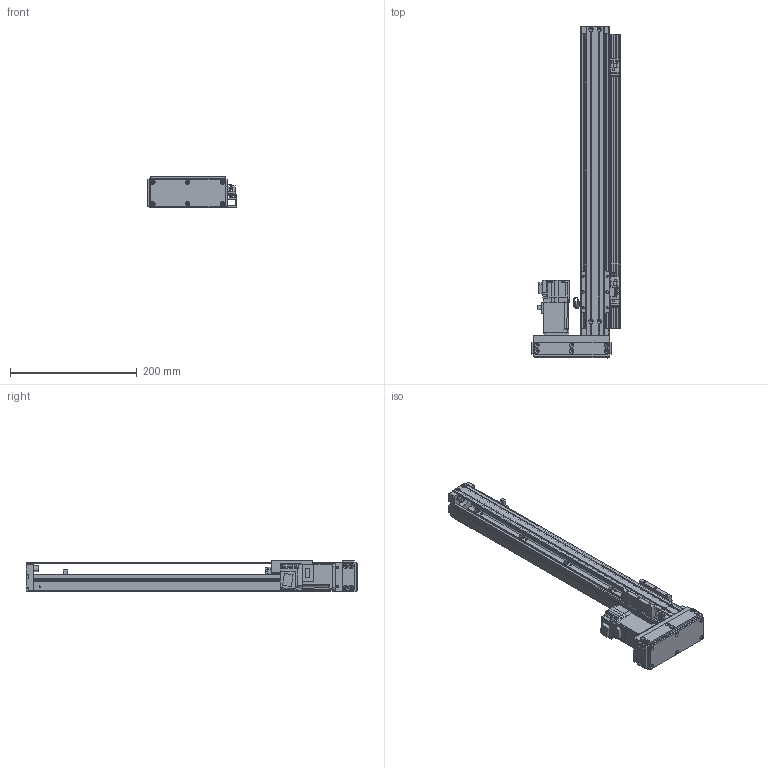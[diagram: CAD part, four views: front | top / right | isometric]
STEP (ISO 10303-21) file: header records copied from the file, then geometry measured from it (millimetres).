
FILE_DESCRIPTION(/* description */ ('MANUFACTURE'),/* implementation_level */ '2;1');
FILE_NAME(/* name */ '\\192.168.0.160\disk1\HAN SHIN Master\B-설계부문\C-표준\B-2024년\BC02-표준도면\+로봇 개선표준도면\표준 승인도 폴더 - 재작업\3D\HG45\병렬-L\HG45-L10-N-0350-R10.stp',/* time_stamp */ '2024-03-05T11:06:36+09:00',/* author */ ('User'),/* organization */ (''),/* preprocessor_version */ 'ST-DEVELOPER v18.1',/* originating_system */ 'Autodesk Inventor 2022',/* authorisation */ 'LIP');
FILE_SCHEMA (('AUTOMOTIVE_DESIGN { 1 0 10303 214 3 1 1 }'));
Products named in the file (21): HG45-L10-N-0500-R10 - 간소화; HR45 S BASE; HR45 REAR BLOCK; HR45 FRONT BLOCK; HR45 STOPPER; HR45 SENSOR RAIL; HR45 SENSOR DOG; HC45 - TABLE (SFSR); HR45 UPCOVER-28mm; NIPPLE CAP(신규); hsr_ftht_A-M6F_grease_nipple_joint; HR45 MOTOR PLATE 100W; HR45 L,R MOTOR PLATE; hg-kr13_; 화살표; HR45 LR BELT COVER; HR45 ACRYL COVER(정면); HR45 ACRYL COVER(측면); HR45 ACRYL COVER(상하면); EE_SX674A; ESF1210 NUT
Assembly tree (27 placements, depth 2):
  HG45-L10-N-0500-R10 - 간소화
    HR45 S BASE
    HR45 REAR BLOCK
    HR45 FRONT BLOCK
    HR45 STOPPER  x4
    HR45 SENSOR RAIL
    HR45 SENSOR DOG
    EE_SX674A  x3
    HC45 - TABLE (SFSR)
    HR45 UPCOVER-28mm
    NIPPLE CAP(신규)
    hsr_ftht_A-M6F_grease_nipple_joint
    HR45 MOTOR PLATE 100W
    HR45 L,R MOTOR PLATE
    hg-kr13_
    화살표  x2
    HR45 LR BELT COVER
    HR45 ACRYL COVER(상하면)  x2
    HR45 ACRYL COVER(정면)
    HR45 ACRYL COVER(측면)
    ESF1210 NUT
Bounding box: 139.5 x 524 x 50 mm (x, y, z)
Volume: 622772.7 mm3; surface area: 328225.4 mm2
Topology: 27 solids, 27 shells, 2320 faces, 6354 edges, 4176 vertices
Faces by surface type: plane 1660, cylinder 506, cone 127, bspline 13, sphere 8, torus 6
Full cylindrical faces by diameter (mm): 1 x1, 2.013 x6, 2.459 x74, 2.5 x4, 3 x11, 3.242 x22, 3.4 x36, 3.5 x21, 4 x13, 4.134 x1, 4.5 x16, 4.917 x2, 5.6 x3, 5.9 x2, 6 x20, 6.5 x6, 8 x11, 9 x4, 10 x1, 12 x1, 13 x1, 15 x1, 18 x1, 22 x2, 24 x1, 26 x1, 30 x2
Entity records: 71317 total; most frequent: CARTESIAN_POINT 13945, ORIENTED_EDGE 11828, DIRECTION 11248, EDGE_CURVE 5914, LINE 4670, VECTOR 4670, VERTEX_POINT 3929, AXIS2_PLACEMENT_3D 3289
